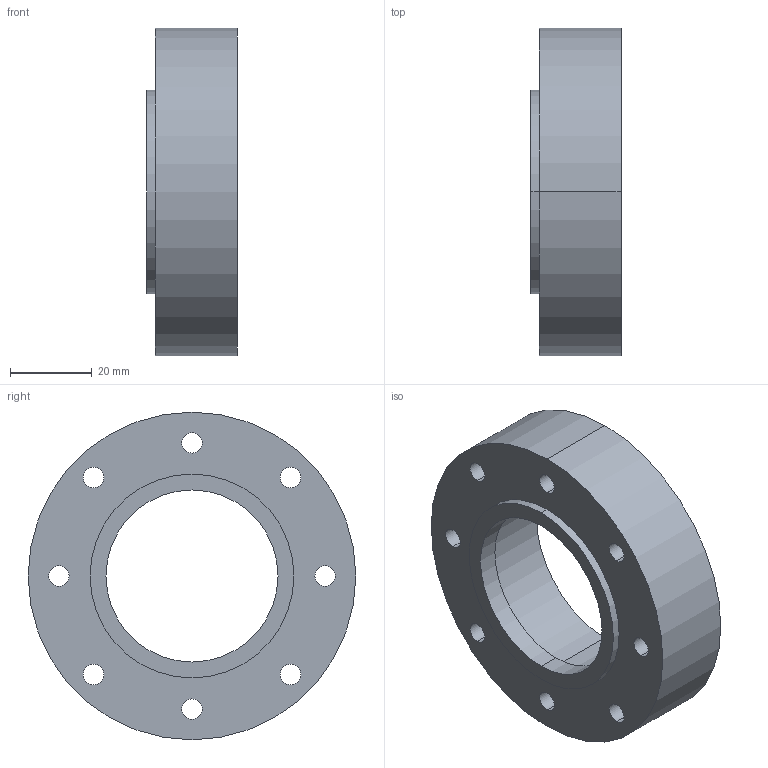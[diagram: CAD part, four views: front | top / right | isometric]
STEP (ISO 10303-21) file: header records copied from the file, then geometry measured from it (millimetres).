
FILE_DESCRIPTION (( 'STEP AP203' ), '1' );
FILE_NAME ('084.809.004.STEP', '2013-01-29T13:17:28', ( 'Alusic' ), ( 'Alusic' ), 'SwSTEP 2.0', 'SolidWorks 2011', '' );
FILE_SCHEMA (( 'CONFIG_CONTROL_DESIGN' ));
Length unit declared in the file: millimetre
Products named in the file (1): 084.809.004
Bounding box: 22 x 80 x 80 mm (x, y, z)
Volume: 64863.7 mm3; surface area: 17990.6 mm2
Topology: 1 solids, 1 shells, 28 faces, 72 edges, 48 vertices
Faces by surface type: cylinder 24, plane 4
Entity records: 997 total; most frequent: DIRECTION 178, CARTESIAN_POINT 149, ORIENTED_EDGE 144, AXIS2_PLACEMENT_3D 77, EDGE_CURVE 72, CIRCLE 48, VERTEX_POINT 48, EDGE_LOOP 48
